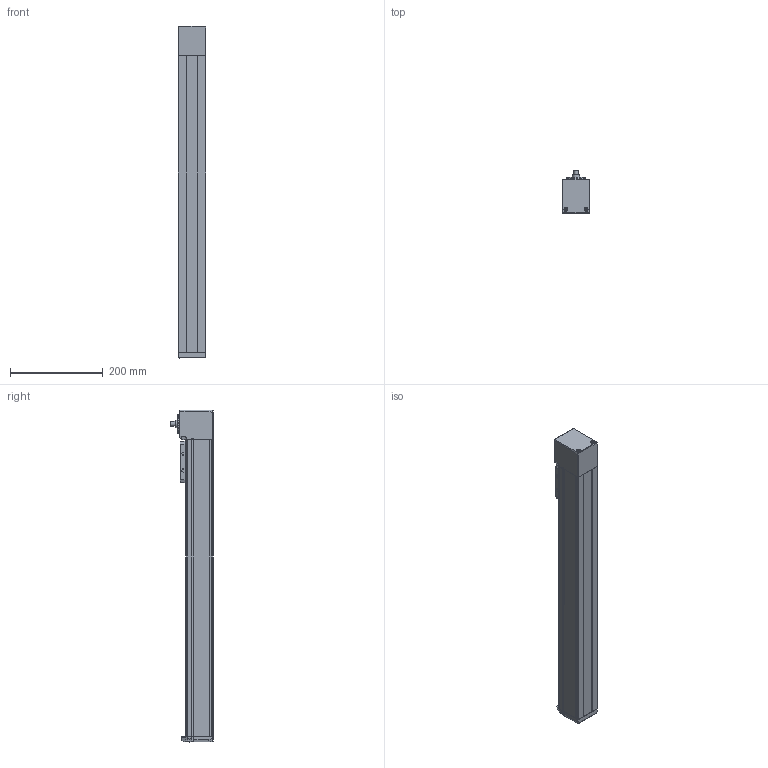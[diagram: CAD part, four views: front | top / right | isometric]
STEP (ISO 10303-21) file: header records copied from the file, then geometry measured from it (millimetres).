
FILE_DESCRIPTION(/* description */ ('STEP AP214'),/* implementation_level */ '2;1');
FILE_NAME(/* name */ 'MGTB 60 500(0)',/* time_stamp */ '2023-04-17T13:39:17+02:00',/* author */ ('License CC BY-ND 4.0'),/* organization */ ('CADENAS'),/* preprocessor_version */ 'ST-DEVELOPER v19.3',/* originating_system */ 'PARTsolutions',/* authorisation */ ' ');
FILE_SCHEMA (('AUTOMOTIVE_DESIGN {1 0 10303 214 3 1 1}'));
Length unit declared in the file: millimetre
Products named in the file (6): MGTB 60 500(0); MGTB 60 500_protection_strip; MGTB 60_carriage; MGTB 60_end_block; MGTB 60 500_profile; MGTB 60_drive_block
Assembly tree (5 placements, depth 2):
  MGTB 60 500(0)
    MGTB 60 500_protection_strip
    MGTB 60_carriage
    MGTB 60_end_block
    MGTB 60 500_profile
    MGTB 60_drive_block
Bounding box: 60 x 92.5 x 715.01 mm (x, y, z)
Volume: 2568019 mm3; surface area: 310338.3 mm2
Topology: 5 solids, 5 shells, 696 faces, 1771 edges, 1140 vertices
Faces by surface type: plane 351, cylinder 156, cone 94, bspline 68, torus 25, sphere 2
Full cylindrical faces by diameter (mm): 2 x1, 2.459 x4, 3.242 x6, 4 x12, 4.134 x8, 4.2 x2, 4.8 x2, 5 x2, 5.5 x4, 7 x6, 8 x4, 10 x1, 11 x3, 16 x1, 17 x1, 30 x1, 35 x1, 42 x2
Entity records: 25037 total; most frequent: CARTESIAN_POINT 4184, DIRECTION 3411, ORIENTED_EDGE 3232, EDGE_CURVE 1616, AXIS2_PLACEMENT_3D 1219, VERTEX_POINT 1120, LINE 973, VECTOR 973
